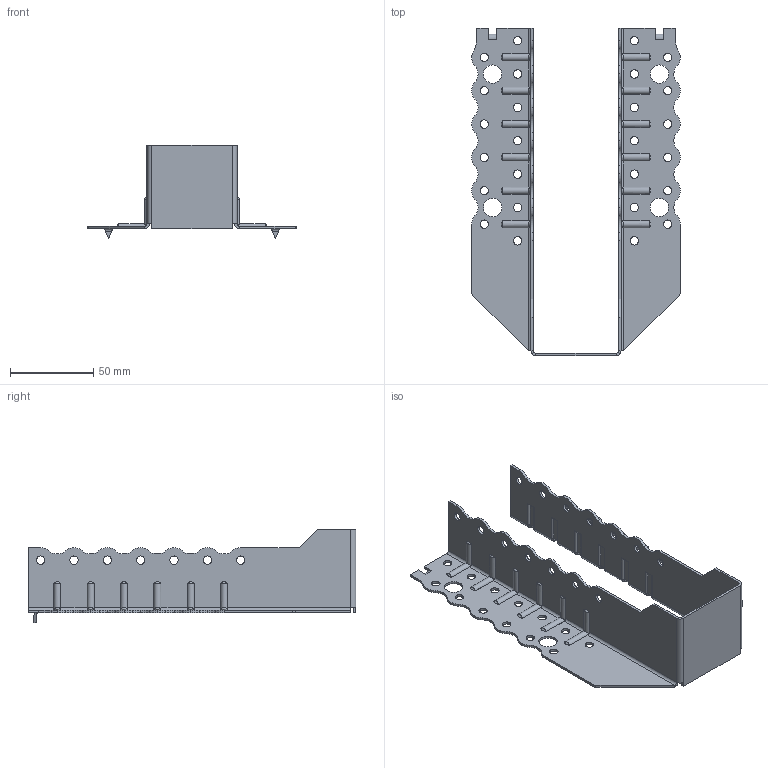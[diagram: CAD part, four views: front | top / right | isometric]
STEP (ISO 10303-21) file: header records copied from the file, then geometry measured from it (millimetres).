
FILE_DESCRIPTION (( 'STEP AP203' ), '1' );
FILE_NAME ('30623TOPK.STEP', '2021-04-08T14:50:01', ( '' ), ( '' ), 'SwSTEP 2.0', 'SolidWorks 2013', '' );
FILE_SCHEMA (( 'CONFIG_CONTROL_DESIGN' ));
Length unit declared in the file: millimetre
Products named in the file (1): 30623TOPK
Bounding box: 125 x 196.5 x 56 mm (x, y, z)
Volume: 42911.3 mm3; surface area: 61064.6 mm2
Topology: 1 solids, 1 shells, 496 faces, 1342 edges, 848 vertices
Faces by surface type: cylinder 315, plane 133, torus 24, bspline 24
Entity records: 18521 total; most frequent: CARTESIAN_POINT 5917, ORIENTED_EDGE 2684, DIRECTION 2582, EDGE_CURVE 1342, AXIS2_PLACEMENT_3D 943, VERTEX_POINT 848, VECTOR 696, LINE 696
